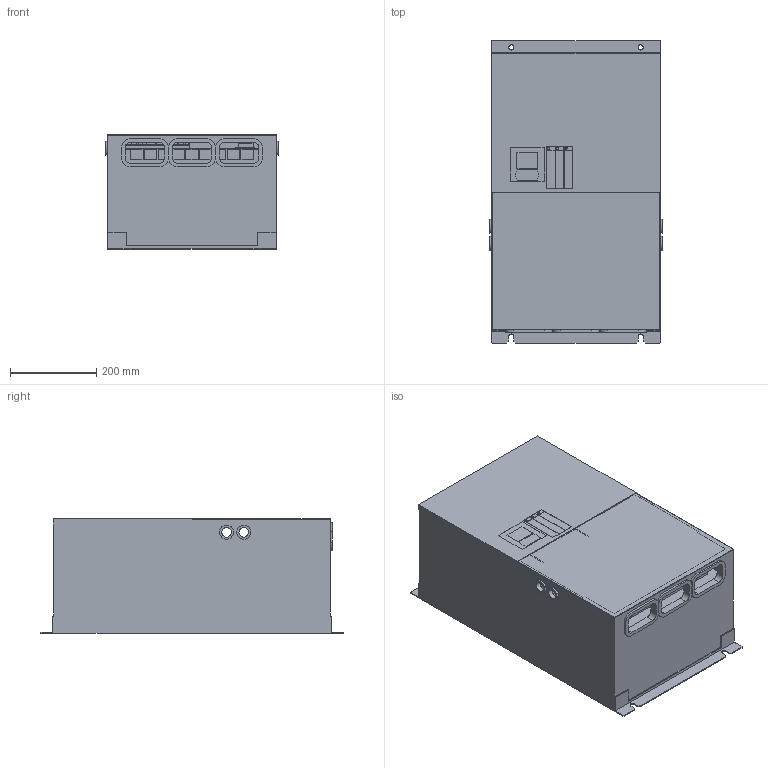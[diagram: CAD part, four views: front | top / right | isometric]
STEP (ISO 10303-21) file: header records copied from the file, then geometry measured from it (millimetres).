
FILE_DESCRIPTION(('FreeCAD Model'),'2;1');
FILE_NAME('C:/3D-Step/Hitachi/SJ-P1/P1_neu/P1-01760...02130HFEF.step', '2020-10-23T11:19:36',('Author'),(''), 'Open CASCADE STEP processor 6.8','FreeCAD','Unknown');
FILE_SCHEMA(('AUTOMOTIVE_DESIGN_CC2 { 1 2 10303 214 -1 1 5 4 }'));
Length unit declared in the file: millimetre
Products named in the file (5): ASSEMBLY; _Terminal_Cover_; _Cover_Option_Slot_1; _VOP_; _Body_P1_01760...02130H
Assembly tree (6 placements, depth 2):
  ASSEMBLY
    _Terminal_Cover_
    _Cover_Option_Slot_1  x3
    _VOP_
    _Body_P1_01760...02130H
Bounding box: 398.8 x 700 x 265.5 mm (x, y, z)
Volume: 58962552.8 mm3; surface area: 1559809.5 mm2
Topology: 6 solids, 6 shells, 617 faces, 1743 edges, 1164 vertices
Faces by surface type: plane 572, cylinder 42, torus 3
Full cylindrical faces by diameter (mm): 12 x2, 22.2 x4, 33 x4
Entity records: 48650 total; most frequent: CARTESIAN_POINT 10555, DIRECTION 6192, LINE 4716, VECTOR 4716, ORIENTED_EDGE 3378, PCURVE 3378, DEFINITIONAL_REPRESENTATION 3378, EDGE_CURVE 1689
